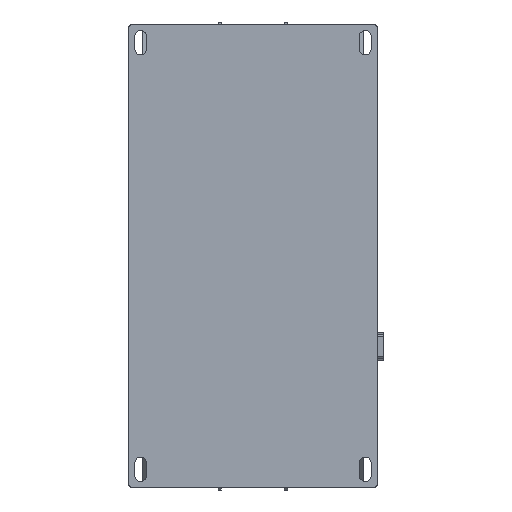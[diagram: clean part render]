
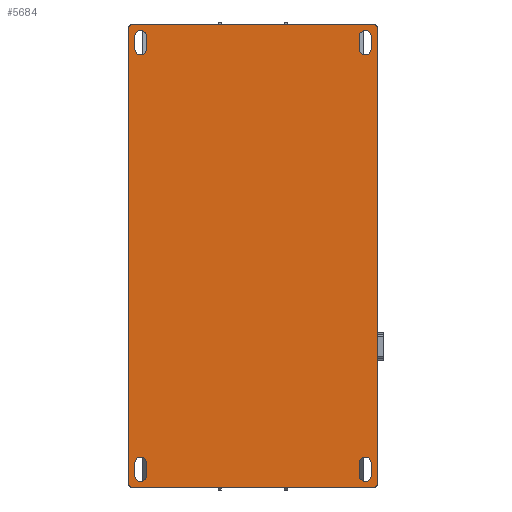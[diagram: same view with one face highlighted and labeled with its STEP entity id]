
A CAD part, front view. The second image highlights one B-rep face of the part: STEP entity #5684.
In plain terms, the highlighted planar face has unit normal (0, -1, 0).
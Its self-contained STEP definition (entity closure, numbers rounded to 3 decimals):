
#5684=ADVANCED_FACE('',(#12134,#12136,#12138,#12140,#12142),#12144,.T.);
#12134=FACE_BOUND('',#12135,.T.);
#12135=EDGE_LOOP('',(#18124,#18125,#18126,#18127,#18128,#18129,#18130,#18131));
#12136=FACE_BOUND('',#12137,.T.);
#12137=EDGE_LOOP('',(#18132,#18133,#18134,#18135));
#12138=FACE_BOUND('',#12139,.T.);
#12139=EDGE_LOOP('',(#18136,#18137,#18138,#18139));
#12140=FACE_BOUND('',#12141,.T.);
#12141=EDGE_LOOP('',(#18140,#18141,#18142,#18143));
#12142=FACE_BOUND('',#12143,.T.);
#12143=EDGE_LOOP('',(#18144,#18145,#18146,#18147));
#12144=PLANE('',#12145);
#12145=AXIS2_PLACEMENT_3D('',#12146,#12147,#12148);
#12146=CARTESIAN_POINT('',(0.,-10.5,0.));
#12147=DIRECTION('',(0.,-1.,0.));
#12148=DIRECTION('',(1.,0.,0.));
#18124=ORIENTED_EDGE('',*,*,#21717,.F.);
#18125=ORIENTED_EDGE('',*,*,#21558,.T.);
#18126=ORIENTED_EDGE('',*,*,#21718,.F.);
#18127=ORIENTED_EDGE('',*,*,#21719,.T.);
#18128=ORIENTED_EDGE('',*,*,#21720,.F.);
#18129=ORIENTED_EDGE('',*,*,#21439,.T.);
#18130=ORIENTED_EDGE('',*,*,#21716,.F.);
#18131=ORIENTED_EDGE('',*,*,#21721,.T.);
#18132=ORIENTED_EDGE('',*,*,#21722,.T.);
#18133=ORIENTED_EDGE('',*,*,#21723,.T.);
#18134=ORIENTED_EDGE('',*,*,#21724,.T.);
#18135=ORIENTED_EDGE('',*,*,#21725,.T.);
#18136=ORIENTED_EDGE('',*,*,#21726,.T.);
#18137=ORIENTED_EDGE('',*,*,#21727,.T.);
#18138=ORIENTED_EDGE('',*,*,#21728,.T.);
#18139=ORIENTED_EDGE('',*,*,#21729,.T.);
#18140=ORIENTED_EDGE('',*,*,#21730,.T.);
#18141=ORIENTED_EDGE('',*,*,#21731,.T.);
#18142=ORIENTED_EDGE('',*,*,#21732,.T.);
#18143=ORIENTED_EDGE('',*,*,#21733,.T.);
#18144=ORIENTED_EDGE('',*,*,#21734,.T.);
#18145=ORIENTED_EDGE('',*,*,#21735,.T.);
#18146=ORIENTED_EDGE('',*,*,#21736,.T.);
#18147=ORIENTED_EDGE('',*,*,#21737,.T.);
#21439=EDGE_CURVE('',#25020,#25018,#25021,.T.);
#21558=EDGE_CURVE('',#25224,#25231,#25233,.T.);
#21716=EDGE_CURVE('',#25505,#25018,#25507,.F.);
#21717=EDGE_CURVE('',#25224,#25508,#25509,.F.);
#21718=EDGE_CURVE('',#25510,#25231,#25511,.F.);
#21719=EDGE_CURVE('',#25510,#25512,#25513,.T.);
#21720=EDGE_CURVE('',#25020,#25512,#25514,.F.);
#21721=EDGE_CURVE('',#25505,#25508,#25515,.T.);
#21722=EDGE_CURVE('',#25516,#25517,#25518,.F.);
#21723=EDGE_CURVE('',#25517,#25519,#25520,.F.);
#21724=EDGE_CURVE('',#25519,#25521,#25522,.F.);
#21725=EDGE_CURVE('',#25521,#25516,#25523,.F.);
#21726=EDGE_CURVE('',#25524,#25525,#25526,.F.);
#21727=EDGE_CURVE('',#25525,#25527,#25528,.F.);
#21728=EDGE_CURVE('',#25527,#25529,#25530,.F.);
#21729=EDGE_CURVE('',#25529,#25524,#25531,.F.);
#21730=EDGE_CURVE('',#25532,#25533,#25534,.F.);
#21731=EDGE_CURVE('',#25533,#25535,#25536,.F.);
#21732=EDGE_CURVE('',#25535,#25537,#25538,.F.);
#21733=EDGE_CURVE('',#25537,#25532,#25539,.F.);
#21734=EDGE_CURVE('',#25540,#25541,#25542,.F.);
#21735=EDGE_CURVE('',#25541,#25543,#25544,.F.);
#21736=EDGE_CURVE('',#25543,#25545,#25546,.F.);
#21737=EDGE_CURVE('',#25545,#25540,#25547,.F.);
#25018=VERTEX_POINT('',#32573);
#25020=VERTEX_POINT('',#32577);
#25021=LINE('',#32578,#32579);
#25224=VERTEX_POINT('',#33016);
#25231=VERTEX_POINT('',#33031);
#25233=LINE('',#33035,#33036);
#25505=VERTEX_POINT('',#33639);
#25507=CIRCLE('',#33643,2.);
#25508=VERTEX_POINT('',#33647);
#25509=CIRCLE('',#33648,2.);
#25510=VERTEX_POINT('',#33652);
#25511=CIRCLE('',#33653,2.);
#25512=VERTEX_POINT('',#33657);
#25513=LINE('',#33658,#33659);
#25514=CIRCLE('',#33661,2.);
#25515=LINE('',#33665,#33666);
#25516=VERTEX_POINT('',#33668);
#25517=VERTEX_POINT('',#33669);
#25518=CIRCLE('',#33670,3.5);
#25519=VERTEX_POINT('',#33674);
#25520=LINE('',#33675,#33676);
#25521=VERTEX_POINT('',#33678);
#25522=CIRCLE('',#33679,3.5);
#25523=LINE('',#33683,#33684);
#25524=VERTEX_POINT('',#33686);
#25525=VERTEX_POINT('',#33687);
#25526=LINE('',#33688,#33689);
#25527=VERTEX_POINT('',#33691);
#25528=CIRCLE('',#33692,3.5);
#25529=VERTEX_POINT('',#33696);
#25530=LINE('',#33697,#33698);
#25531=CIRCLE('',#33700,3.5);
#25532=VERTEX_POINT('',#33704);
#25533=VERTEX_POINT('',#33705);
#25534=CIRCLE('',#33706,3.5);
#25535=VERTEX_POINT('',#33710);
#25536=LINE('',#33711,#33712);
#25537=VERTEX_POINT('',#33714);
#25538=CIRCLE('',#33715,3.5);
#25539=LINE('',#33719,#33720);
#25540=VERTEX_POINT('',#33722);
#25541=VERTEX_POINT('',#33723);
#25542=CIRCLE('',#33724,3.5);
#25543=VERTEX_POINT('',#33728);
#25544=LINE('',#33729,#33730);
#25545=VERTEX_POINT('',#33732);
#25546=CIRCLE('',#33733,3.5);
#25547=LINE('',#33737,#33738);
#32573=CARTESIAN_POINT('',(-72.,-10.5,-141.25));
#32577=CARTESIAN_POINT('',(-72.,-10.5,122.75));
#32578=CARTESIAN_POINT('',(-72.,-10.5,122.75));
#32579=VECTOR('',#32580,1.);
#32580=DIRECTION('',(0.,0.,-1.));
#33016=CARTESIAN_POINT('',(72.,-10.5,-141.25));
#33031=CARTESIAN_POINT('',(72.,-10.5,122.75));
#33035=CARTESIAN_POINT('',(72.,-10.5,-141.25));
#33036=VECTOR('',#33037,1.);
#33037=DIRECTION('',(0.,0.,1.));
#33639=CARTESIAN_POINT('',(-70.,-10.5,-143.25));
#33643=AXIS2_PLACEMENT_3D('',#33644,#33645,#33646);
#33644=CARTESIAN_POINT('',(-70.,-10.5,-141.25));
#33645=DIRECTION('',(0.,-1.,0.));
#33646=DIRECTION('',(-1.,0.,0.));
#33647=CARTESIAN_POINT('',(70.,-10.5,-143.25));
#33648=AXIS2_PLACEMENT_3D('',#33649,#33650,#33651);
#33649=CARTESIAN_POINT('',(70.,-10.5,-141.25));
#33650=DIRECTION('',(0.,-1.,0.));
#33651=DIRECTION('',(0.,0.,-1.));
#33652=CARTESIAN_POINT('',(70.,-10.5,124.75));
#33653=AXIS2_PLACEMENT_3D('',#33654,#33655,#33656);
#33654=CARTESIAN_POINT('',(70.,-10.5,122.75));
#33655=DIRECTION('',(0.,-1.,0.));
#33656=DIRECTION('',(1.,0.,0.));
#33657=CARTESIAN_POINT('',(-70.,-10.5,124.75));
#33658=CARTESIAN_POINT('',(70.,-10.5,124.75));
#33659=VECTOR('',#33660,1.);
#33660=DIRECTION('',(-1.,0.,0.));
#33661=AXIS2_PLACEMENT_3D('',#33662,#33663,#33664);
#33662=CARTESIAN_POINT('',(-70.,-10.5,122.75));
#33663=DIRECTION('',(0.,-1.,0.));
#33664=DIRECTION('',(0.,0.,1.));
#33665=CARTESIAN_POINT('',(-70.,-10.5,-143.25));
#33666=VECTOR('',#33667,1.);
#33667=DIRECTION('',(1.,0.,0.));
#33668=CARTESIAN_POINT('',(-68.5,-10.5,117.75));
#33669=CARTESIAN_POINT('',(-61.5,-10.5,117.75));
#33670=AXIS2_PLACEMENT_3D('',#33671,#33672,#33673);
#33671=CARTESIAN_POINT('',(-65.,-10.5,117.75));
#33672=DIRECTION('',(0.,-1.,0.));
#33673=DIRECTION('',(1.,0.,0.));
#33674=CARTESIAN_POINT('',(-61.5,-10.5,110.75));
#33675=CARTESIAN_POINT('',(-61.5,-10.5,110.75));
#33676=VECTOR('',#33677,1.);
#33677=DIRECTION('',(0.,0.,1.));
#33678=CARTESIAN_POINT('',(-68.5,-10.5,110.75));
#33679=AXIS2_PLACEMENT_3D('',#33680,#33681,#33682);
#33680=CARTESIAN_POINT('',(-65.,-10.5,110.75));
#33681=DIRECTION('',(0.,-1.,0.));
#33682=DIRECTION('',(-1.,0.,0.));
#33683=CARTESIAN_POINT('',(-68.5,-10.5,117.75));
#33684=VECTOR('',#33685,1.);
#33685=DIRECTION('',(0.,0.,-1.));
#33686=CARTESIAN_POINT('',(61.5,-10.5,110.75));
#33687=CARTESIAN_POINT('',(61.5,-10.5,117.75));
#33688=CARTESIAN_POINT('',(61.5,-10.5,117.75));
#33689=VECTOR('',#33690,1.);
#33690=DIRECTION('',(0.,0.,-1.));
#33691=CARTESIAN_POINT('',(68.5,-10.5,117.75));
#33692=AXIS2_PLACEMENT_3D('',#33693,#33694,#33695);
#33693=CARTESIAN_POINT('',(65.,-10.5,117.75));
#33694=DIRECTION('',(0.,-1.,0.));
#33695=DIRECTION('',(1.,0.,0.));
#33696=CARTESIAN_POINT('',(68.5,-10.5,110.75));
#33697=CARTESIAN_POINT('',(68.5,-10.5,110.75));
#33698=VECTOR('',#33699,1.);
#33699=DIRECTION('',(0.,0.,1.));
#33700=AXIS2_PLACEMENT_3D('',#33701,#33702,#33703);
#33701=CARTESIAN_POINT('',(65.,-10.5,110.75));
#33702=DIRECTION('',(0.,-1.,0.));
#33703=DIRECTION('',(-1.,0.,0.));
#33704=CARTESIAN_POINT('',(-68.5,-10.5,-129.25));
#33705=CARTESIAN_POINT('',(-61.5,-10.5,-129.25));
#33706=AXIS2_PLACEMENT_3D('',#33707,#33708,#33709);
#33707=CARTESIAN_POINT('',(-65.,-10.5,-129.25));
#33708=DIRECTION('',(0.,-1.,0.));
#33709=DIRECTION('',(1.,0.,0.));
#33710=CARTESIAN_POINT('',(-61.5,-10.5,-136.25));
#33711=CARTESIAN_POINT('',(-61.5,-10.5,-136.25));
#33712=VECTOR('',#33713,1.);
#33713=DIRECTION('',(0.,0.,1.));
#33714=CARTESIAN_POINT('',(-68.5,-10.5,-136.25));
#33715=AXIS2_PLACEMENT_3D('',#33716,#33717,#33718);
#33716=CARTESIAN_POINT('',(-65.,-10.5,-136.25));
#33717=DIRECTION('',(0.,-1.,0.));
#33718=DIRECTION('',(-1.,0.,0.));
#33719=CARTESIAN_POINT('',(-68.5,-10.5,-129.25));
#33720=VECTOR('',#33721,1.);
#33721=DIRECTION('',(0.,0.,-1.));
#33722=CARTESIAN_POINT('',(61.5,-10.5,-129.25));
#33723=CARTESIAN_POINT('',(68.5,-10.5,-129.25));
#33724=AXIS2_PLACEMENT_3D('',#33725,#33726,#33727);
#33725=CARTESIAN_POINT('',(65.,-10.5,-129.25));
#33726=DIRECTION('',(0.,-1.,0.));
#33727=DIRECTION('',(1.,0.,0.));
#33728=CARTESIAN_POINT('',(68.5,-10.5,-136.25));
#33729=CARTESIAN_POINT('',(68.5,-10.5,-136.25));
#33730=VECTOR('',#33731,1.);
#33731=DIRECTION('',(0.,0.,1.));
#33732=CARTESIAN_POINT('',(61.5,-10.5,-136.25));
#33733=AXIS2_PLACEMENT_3D('',#33734,#33735,#33736);
#33734=CARTESIAN_POINT('',(65.,-10.5,-136.25));
#33735=DIRECTION('',(0.,-1.,0.));
#33736=DIRECTION('',(-1.,0.,0.));
#33737=CARTESIAN_POINT('',(61.5,-10.5,-129.25));
#33738=VECTOR('',#33739,1.);
#33739=DIRECTION('',(0.,0.,-1.));
